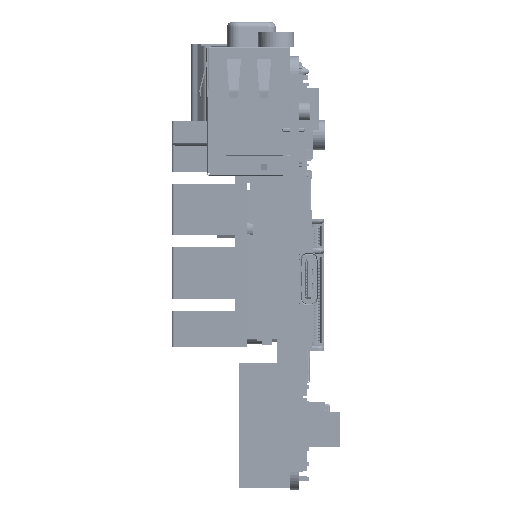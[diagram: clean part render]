
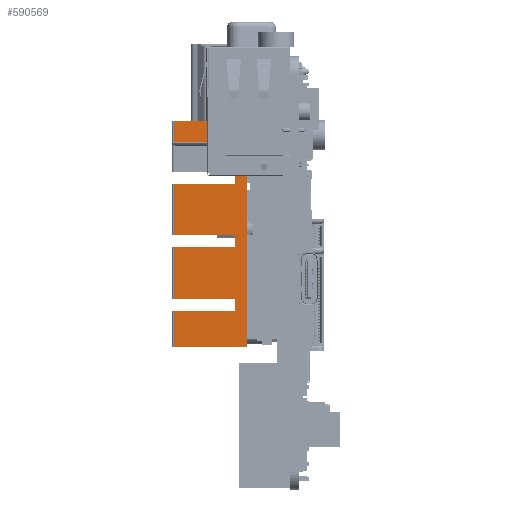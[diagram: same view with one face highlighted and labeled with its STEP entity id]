
A CAD part, left-side view. The second image highlights one B-rep face of the part: STEP entity #590569.
In plain terms, the highlighted planar face has unit normal (-1, 0.018, 0) as drawn and (-1, 0, 0.017) by its records, which use the part's own axes.
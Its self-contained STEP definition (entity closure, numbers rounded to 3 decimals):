
#583885=DIRECTION('',(-0.017,0.,-1.));
#583886=VECTOR('',#583885,12.075);
#583887=CARTESIAN_POINT('',(-20.324,18.75,15.073));
#583888=LINE('',#583887,#583886);
#584405=DIRECTION('',(0.017,0.,1.));
#584406=VECTOR('',#584405,12.075);
#584407=CARTESIAN_POINT('',(-20.535,-18.75,3.));
#584408=LINE('',#584407,#584406);
#584776=DIRECTION('',(0.,-1.,0.));
#584777=VECTOR('',#584776,37.5);
#584778=CARTESIAN_POINT('',(-20.535,18.75,3.));
#584779=LINE('',#584778,#584777);
#584822=DIRECTION('',(0.,-1.,0.));
#584823=VECTOR('',#584822,6.92);
#584824=CARTESIAN_POINT('',(-20.5,-8.25,5.));
#584825=LINE('',#584824,#584823);
#584826=DIRECTION('',(0.,-1.,0.));
#584827=VECTOR('',#584826,2.);
#584828=CARTESIAN_POINT('',(-20.5,12.75,5.));
#584829=LINE('',#584828,#584827);
#584830=DIRECTION('',(0.,-1.,0.));
#584831=VECTOR('',#584830,2.);
#584832=CARTESIAN_POINT('',(-20.5,2.25,5.));
#584833=LINE('',#584832,#584831);
#584843=DIRECTION('',(-0.017,0.,-1.));
#584844=VECTOR('',#584843,10.075);
#584845=CARTESIAN_POINT('',(-20.324,-15.17,15.073));
#584846=LINE('',#584845,#584844);
#584864=DIRECTION('',(0.,1.,0.));
#584865=VECTOR('',#584864,3.58);
#584866=CARTESIAN_POINT('',(-20.324,-18.75,15.073));
#584867=LINE('',#584866,#584865);
#584868=DIRECTION('',(0.,1.,0.));
#584869=VECTOR('',#584868,6.);
#584870=CARTESIAN_POINT('',(-20.324,12.75,15.073));
#584871=LINE('',#584870,#584869);
#584885=DIRECTION('',(0.017,0.,1.));
#584886=VECTOR('',#584885,10.075);
#584887=CARTESIAN_POINT('',(-20.5,12.75,5.));
#584888=LINE('',#584887,#584886);
#584911=DIRECTION('',(-0.017,0.,-1.));
#584912=VECTOR('',#584911,10.075);
#584913=CARTESIAN_POINT('',(-20.324,10.75,15.073));
#584914=LINE('',#584913,#584912);
#584929=DIRECTION('',(0.017,0.,1.));
#584930=VECTOR('',#584929,10.075);
#584931=CARTESIAN_POINT('',(-20.5,2.25,5.));
#584932=LINE('',#584931,#584930);
#584946=DIRECTION('',(0.,1.,0.));
#584947=VECTOR('',#584946,8.5);
#584948=CARTESIAN_POINT('',(-20.324,2.25,15.073));
#584949=LINE('',#584948,#584947);
#584963=DIRECTION('',(-0.017,0.,-1.));
#584964=VECTOR('',#584963,10.075);
#584965=CARTESIAN_POINT('',(-20.324,0.25,15.073));
#584966=LINE('',#584965,#584964);
#584981=DIRECTION('',(0.017,0.,1.));
#584982=VECTOR('',#584981,10.075);
#584983=CARTESIAN_POINT('',(-20.5,-8.25,5.));
#584984=LINE('',#584983,#584982);
#584998=DIRECTION('',(0.,1.,0.));
#584999=VECTOR('',#584998,8.5);
#585000=CARTESIAN_POINT('',(-20.324,-8.25,15.073));
#585001=LINE('',#585000,#584999);
#588279=CARTESIAN_POINT('',(-20.324,18.75,15.073));
#588280=VERTEX_POINT('',#588279);
#588281=CARTESIAN_POINT('',(-20.535,18.75,3.));
#588282=VERTEX_POINT('',#588281);
#588415=CARTESIAN_POINT('',(-20.5,-15.17,5.));
#588416=VERTEX_POINT('',#588415);
#588417=CARTESIAN_POINT('',(-20.5,-8.25,5.));
#588418=VERTEX_POINT('',#588417);
#588423=CARTESIAN_POINT('',(-20.5,0.25,5.));
#588424=VERTEX_POINT('',#588423);
#588425=CARTESIAN_POINT('',(-20.5,2.25,5.));
#588426=VERTEX_POINT('',#588425);
#588431=CARTESIAN_POINT('',(-20.5,10.75,5.));
#588432=VERTEX_POINT('',#588431);
#588433=CARTESIAN_POINT('',(-20.5,12.75,5.));
#588434=VERTEX_POINT('',#588433);
#588735=CARTESIAN_POINT('',(-20.535,-18.75,3.));
#588736=VERTEX_POINT('',#588735);
#588759=CARTESIAN_POINT('',(-20.324,-18.75,15.073));
#588760=VERTEX_POINT('',#588759);
#588881=CARTESIAN_POINT('',(-20.324,-15.17,15.073));
#588882=VERTEX_POINT('',#588881);
#588883=CARTESIAN_POINT('',(-20.324,12.75,15.073));
#588884=VERTEX_POINT('',#588883);
#588885=CARTESIAN_POINT('',(-20.324,10.75,15.073));
#588886=VERTEX_POINT('',#588885);
#588887=CARTESIAN_POINT('',(-20.324,2.25,15.073));
#588888=VERTEX_POINT('',#588887);
#588889=CARTESIAN_POINT('',(-20.324,0.25,15.073));
#588890=VERTEX_POINT('',#588889);
#588891=CARTESIAN_POINT('',(-20.324,-8.25,15.073));
#588892=VERTEX_POINT('',#588891);
#590536=CARTESIAN_POINT('',(-20.5,-19.433,5.));
#590537=DIRECTION('',(1.,0.,-0.017));
#590538=DIRECTION('',(0.,-1.,0.));
#590539=AXIS2_PLACEMENT_3D('',#590536,#590537,#590538);
#590540=PLANE('',#590539);
#590541=ORIENTED_EDGE('',*,*,#589807,.T.);
#590543=ORIENTED_EDGE('',*,*,#590542,.F.);
#590545=ORIENTED_EDGE('',*,*,#590544,.F.);
#590546=ORIENTED_EDGE('',*,*,#590274,.F.);
#590547=ORIENTED_EDGE('',*,*,#590466,.F.);
#590548=ORIENTED_EDGE('',*,*,#589638,.F.);
#590550=ORIENTED_EDGE('',*,*,#590549,.F.);
#590552=ORIENTED_EDGE('',*,*,#590551,.F.);
#590553=ORIENTED_EDGE('',*,*,#589823,.T.);
#590555=ORIENTED_EDGE('',*,*,#590554,.F.);
#590557=ORIENTED_EDGE('',*,*,#590556,.F.);
#590559=ORIENTED_EDGE('',*,*,#590558,.F.);
#590560=ORIENTED_EDGE('',*,*,#589815,.T.);
#590562=ORIENTED_EDGE('',*,*,#590561,.F.);
#590564=ORIENTED_EDGE('',*,*,#590563,.F.);
#590566=ORIENTED_EDGE('',*,*,#590565,.F.);
#590567=EDGE_LOOP('',(#590541,#590543,#590545,#590546,#590547,#590548,#590550,
#590552,#590553,#590555,#590557,#590559,#590560,#590562,#590564,#590566));
#590568=FACE_OUTER_BOUND('',#590567,.F.);
#589638=EDGE_CURVE('',#588280,#588282,#583888,.T.);
#589807=EDGE_CURVE('',#588418,#588416,#584825,.T.);
#589815=EDGE_CURVE('',#588426,#588424,#584833,.T.);
#589823=EDGE_CURVE('',#588434,#588432,#584829,.T.);
#590274=EDGE_CURVE('',#588736,#588760,#584408,.T.);
#590466=EDGE_CURVE('',#588282,#588736,#584779,.T.);
#590542=EDGE_CURVE('',#588882,#588416,#584846,.T.);
#590544=EDGE_CURVE('',#588760,#588882,#584867,.T.);
#590549=EDGE_CURVE('',#588884,#588280,#584871,.T.);
#590551=EDGE_CURVE('',#588434,#588884,#584888,.T.);
#590554=EDGE_CURVE('',#588886,#588432,#584914,.T.);
#590556=EDGE_CURVE('',#588888,#588886,#584949,.T.);
#590558=EDGE_CURVE('',#588426,#588888,#584932,.T.);
#590561=EDGE_CURVE('',#588890,#588424,#584966,.T.);
#590563=EDGE_CURVE('',#588892,#588890,#585001,.T.);
#590565=EDGE_CURVE('',#588418,#588892,#584984,.T.);
#590569=ADVANCED_FACE('',(#590568),#590540,.F.);
